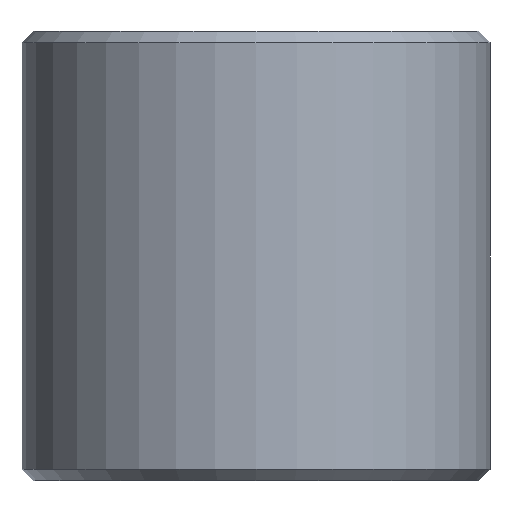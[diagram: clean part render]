
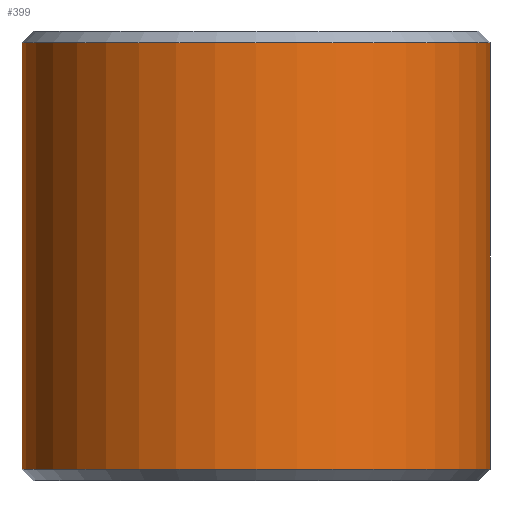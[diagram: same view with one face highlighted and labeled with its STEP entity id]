
A CAD part, front view. The second image highlights one B-rep face of the part: STEP entity #399.
In plain terms, the highlighted cylindrical face has radius 37.5 mm (diameter 75 mm), a partial arc.
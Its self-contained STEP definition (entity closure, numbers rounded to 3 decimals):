
#5 = DIRECTION ( 'NONE',  ( 0., 0., -1. ) ) ;
#47 = VERTEX_POINT ( 'NONE', #251 ) ;
#51 = DIRECTION ( 'NONE',  ( 1., 0., 0. ) ) ;
#56 = EDGE_CURVE ( 'NONE', #449, #60, #327, .T. ) ;
#58 = LINE ( 'NONE', #118, #266 ) ;
#60 = VERTEX_POINT ( 'NONE', #113 ) ;
#63 = VERTEX_POINT ( 'NONE', #144 ) ;
#82 = DIRECTION ( 'NONE',  ( 0., 0., -1. ) ) ;
#90 = VECTOR ( 'NONE', #364, 1000. ) ;
#113 = CARTESIAN_POINT ( 'NONE',  ( -37.5, 0., 34.2 ) ) ;
#118 = CARTESIAN_POINT ( 'NONE',  ( 37.5, 0., 36. ) ) ;
#128 = CYLINDRICAL_SURFACE ( 'NONE', #130, 37.5 ) ;
#130 = AXIS2_PLACEMENT_3D ( 'NONE', #264, #5, #294 ) ;
#144 = CARTESIAN_POINT ( 'NONE',  ( 37.5, 0., -34.2 ) ) ;
#171 = ORIENTED_EDGE ( 'NONE', *, *, #267, .T. ) ;
#185 = AXIS2_PLACEMENT_3D ( 'NONE', #281, #82, #218 ) ;
#196 = DIRECTION ( 'NONE',  ( 0., 0., -1. ) ) ;
#204 = AXIS2_PLACEMENT_3D ( 'NONE', #358, #263, #51 ) ;
#207 = EDGE_LOOP ( 'NONE', ( #390, #224, #171, #232 ) ) ;
#218 = DIRECTION ( 'NONE',  ( 1., 0., 0. ) ) ;
#224 = ORIENTED_EDGE ( 'NONE', *, *, #56, .T. ) ;
#232 = ORIENTED_EDGE ( 'NONE', *, *, #323, .T. ) ;
#251 = CARTESIAN_POINT ( 'NONE',  ( -37.5, 0., -34.2 ) ) ;
#257 = LINE ( 'NONE', #293, #90 ) ;
#263 = DIRECTION ( 'NONE',  ( 0., 0., 1. ) ) ;
#264 = CARTESIAN_POINT ( 'NONE',  ( 0., 0., 36. ) ) ;
#266 = VECTOR ( 'NONE', #196, 1000. ) ;
#267 = EDGE_CURVE ( 'NONE', #60, #47, #257, .T. ) ;
#281 = CARTESIAN_POINT ( 'NONE',  ( 0., 0., 34.2 ) ) ;
#293 = CARTESIAN_POINT ( 'NONE',  ( -37.5, 0., 36. ) ) ;
#294 = DIRECTION ( 'NONE',  ( -1., 0., 0. ) ) ;
#296 = FACE_OUTER_BOUND ( 'NONE', #207, .T. ) ;
#302 = CARTESIAN_POINT ( 'NONE',  ( 37.5, 0., 34.2 ) ) ;
#310 = EDGE_CURVE ( 'NONE', #449, #63, #58, .T. ) ;
#313 = CIRCLE ( 'NONE', #204, 37.5 ) ;
#323 = EDGE_CURVE ( 'NONE', #47, #63, #313, .T. ) ;
#327 = CIRCLE ( 'NONE', #185, 37.5 ) ;
#358 = CARTESIAN_POINT ( 'NONE',  ( 0., 0., -34.2 ) ) ;
#364 = DIRECTION ( 'NONE',  ( 0., 0., -1. ) ) ;
#390 = ORIENTED_EDGE ( 'NONE', *, *, #310, .F. ) ;
#399 = ADVANCED_FACE ( 'NONE', ( #296 ), #128, .T. ) ;
#449 = VERTEX_POINT ( 'NONE', #302 ) ;
